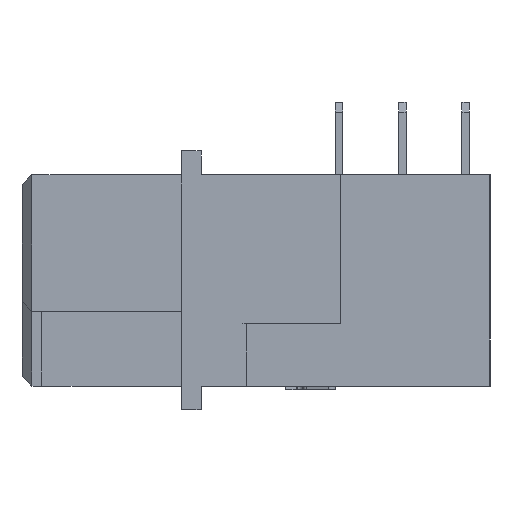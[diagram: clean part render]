
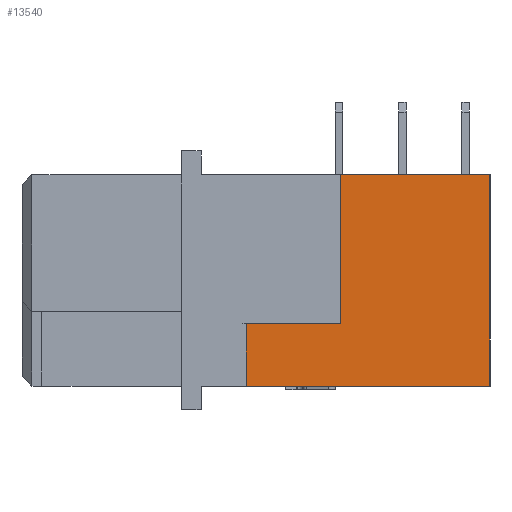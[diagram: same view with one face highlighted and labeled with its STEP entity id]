
A CAD part, left-side view. The second image highlights one B-rep face of the part: STEP entity #13540.
In plain terms, the highlighted planar face has unit normal (-1, 0, 0).
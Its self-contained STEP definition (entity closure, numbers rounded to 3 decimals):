
#876 = EDGE_CURVE ( 'NONE', #8661, #8083, #7779, .T. ) ;
#879 = EDGE_CURVE ( 'NONE', #8083, #8329, #7442, .T. ) ;
#925 = EDGE_CURVE ( 'NONE', #9110, #8358, #7401, .T. ) ;
#927 = EDGE_CURVE ( 'NONE', #8970, #8358, #7931, .T. ) ;
#1495 = CARTESIAN_POINT ( 'NONE',  ( 388.018, 186.775, -6.95 ) ) ;
#1507 = CARTESIAN_POINT ( 'NONE',  ( 388.018, 186.775, -0.95 ) ) ;
#1558 = CARTESIAN_POINT ( 'NONE',  ( 388.018, 190.575, -6.95 ) ) ;
#1562 = CARTESIAN_POINT ( 'NONE',  ( 388.018, 180.775, -9.45 ) ) ;
#1599 = CARTESIAN_POINT ( 'NONE',  ( 388.018, 180.775, -0.95 ) ) ;
#1781 = CARTESIAN_POINT ( 'NONE',  ( 388.018, 190.575, -9.45 ) ) ;
#2265 = VECTOR ( 'NONE', #3653, 1000. ) ;
#2297 = VECTOR ( 'NONE', #3992, 1000. ) ;
#2450 = EDGE_CURVE ( 'NONE', #8329, #9110, #4004, .T. ) ;
#2461 = EDGE_CURVE ( 'NONE', #8970, #8661, #3659, .T. ) ;
#3653 = DIRECTION ( 'NONE',  ( 0., 1., 0. ) ) ;
#3654 = CARTESIAN_POINT ( 'NONE',  ( 388.018, 180.775, -6.95 ) ) ;
#3659 = LINE ( 'NONE', #3654, #2265 ) ;
#3992 = DIRECTION ( 'NONE',  ( 0., 0., 1. ) ) ;
#4004 = LINE ( 'NONE', #4033, #2297 ) ;
#4033 = CARTESIAN_POINT ( 'NONE',  ( 388.018, 180.775, -9.45 ) ) ;
#7231 = CARTESIAN_POINT ( 'NONE',  ( 388.018, 186.775, -0.95 ) ) ;
#7298 = DIRECTION ( 'NONE',  ( 0., 0., -1. ) ) ;
#7395 = CARTESIAN_POINT ( 'NONE',  ( 388.018, 180.775, -9.45 ) ) ;
#7401 = LINE ( 'NONE', #7231, #12410 ) ;
#7442 = LINE ( 'NONE', #7395, #12355 ) ;
#7779 = LINE ( 'NONE', #8034, #12359 ) ;
#7790 = DIRECTION ( 'NONE',  ( 0., 0., 1. ) ) ;
#7893 = DIRECTION ( 'NONE',  ( 0., -1., 0. ) ) ;
#7931 = LINE ( 'NONE', #7973, #12347 ) ;
#7945 = ORIENTED_EDGE ( 'NONE', *, *, #876, .T. ) ;
#7946 = ORIENTED_EDGE ( 'NONE', *, *, #2461, .T. ) ;
#7947 = ORIENTED_EDGE ( 'NONE', *, *, #927, .F. ) ;
#7949 = ORIENTED_EDGE ( 'NONE', *, *, #925, .T. ) ;
#7952 = ORIENTED_EDGE ( 'NONE', *, *, #2450, .T. ) ;
#7953 = ORIENTED_EDGE ( 'NONE', *, *, #879, .T. ) ;
#7973 = CARTESIAN_POINT ( 'NONE',  ( 388.018, 186.775, -0.95 ) ) ;
#8034 = CARTESIAN_POINT ( 'NONE',  ( 388.018, 190.575, -9.45 ) ) ;
#8061 = DIRECTION ( 'NONE',  ( 0., 1., 0. ) ) ;
#8083 = VERTEX_POINT ( 'NONE', #1781 ) ;
#8329 = VERTEX_POINT ( 'NONE', #1562 ) ;
#8358 = VERTEX_POINT ( 'NONE', #1507 ) ;
#8505 = EDGE_LOOP ( 'NONE', ( #7953, #7952, #7949, #7947, #7946, #7945 ) ) ;
#8661 = VERTEX_POINT ( 'NONE', #1558 ) ;
#8970 = VERTEX_POINT ( 'NONE', #1495 ) ;
#9110 = VERTEX_POINT ( 'NONE', #1599 ) ;
#12347 = VECTOR ( 'NONE', #7790, 1000. ) ;
#12355 = VECTOR ( 'NONE', #7893, 1000. ) ;
#12359 = VECTOR ( 'NONE', #7298, 1000. ) ;
#12410 = VECTOR ( 'NONE', #8061, 1000. ) ;
#13540 = ADVANCED_FACE ( 'NONE', ( #22869 ), #22854, .T. ) ;
#21815 = AXIS2_PLACEMENT_3D ( 'NONE', #22879, #22880, #22881 ) ;
#22854 = PLANE ( 'NONE',  #21815 ) ;
#22869 = FACE_OUTER_BOUND ( 'NONE', #8505, .T. ) ;
#22879 = CARTESIAN_POINT ( 'NONE',  ( 388.018, 180.775, -9.45 ) ) ;
#22880 = DIRECTION ( 'NONE',  ( -1., 0., 0. ) ) ;
#22881 = DIRECTION ( 'NONE',  ( 0., 0., 1. ) ) ;
